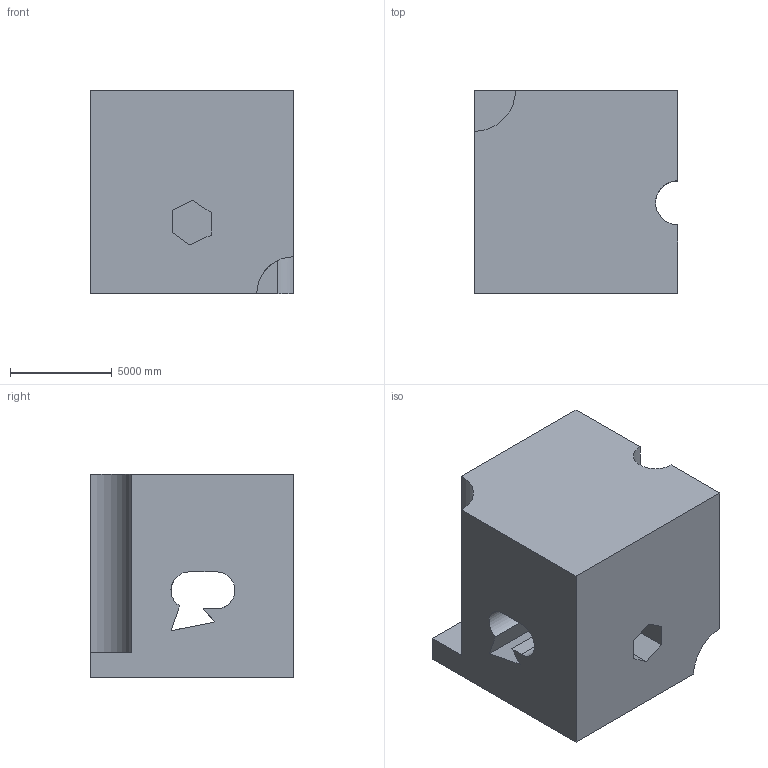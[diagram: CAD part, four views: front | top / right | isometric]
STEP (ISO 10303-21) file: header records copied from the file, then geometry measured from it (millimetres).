
FILE_DESCRIPTION (( 'STEP AP203' ), '1' );
FILE_NAME ('764.STEP', '2022-08-04T15:49:37', ( 'user' ), ( '' ), 'SwSTEP 2.0', 'SolidWorks 2021', '' );
FILE_SCHEMA (( 'CONFIG_CONTROL_DESIGN' ));
Length unit declared in the file: centimetre
Products named in the file (1): 764
Bounding box: 10000 x 10000 x 10000 mm (x, y, z)
Volume: 851561873332.2 mm3; surface area: 742822836 mm2
Topology: 1 solids, 1 shells, 39 faces, 111 edges, 74 vertices
Faces by surface type: plane 30, cylinder 9
Entity records: 1572 total; most frequent: CARTESIAN_POINT 468, ORIENTED_EDGE 222, DIRECTION 201, EDGE_CURVE 111, LINE 85, VECTOR 85, VERTEX_POINT 74, AXIS2_PLACEMENT_3D 58
